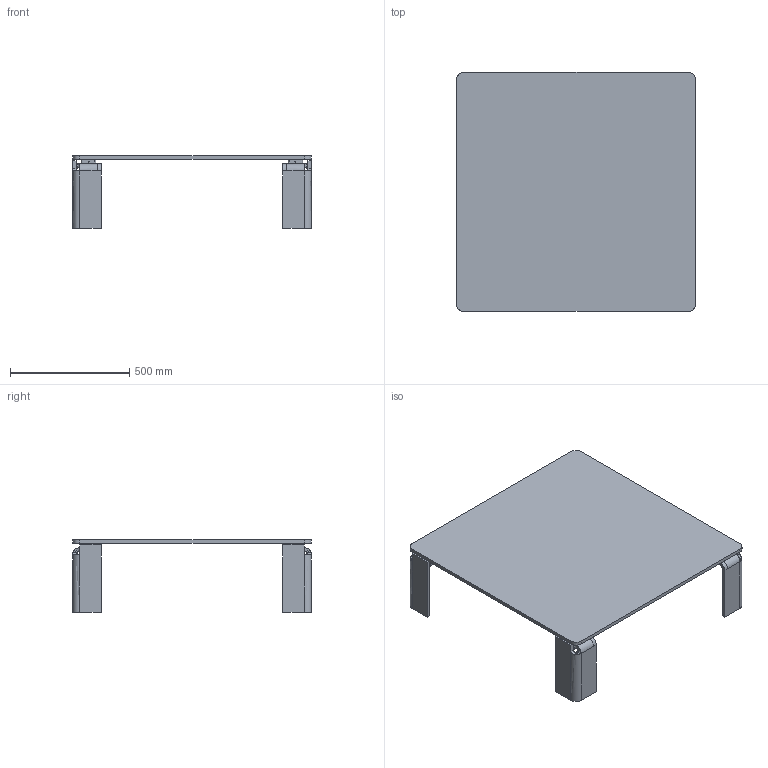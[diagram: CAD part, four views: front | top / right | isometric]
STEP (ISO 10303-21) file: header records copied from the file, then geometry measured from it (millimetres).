
FILE_DESCRIPTION(/* description */ (''),/* implementation_level */ '2;1');
FILE_NAME(/* name */ '102 - Newton 100x100 H30',/* time_stamp */ '2012-06-20T14:53:23+02:00',/* author */ (''),/* organization */ (''),/* preprocessor_version */ 'ST-DEVELOPER v10',/* originating_system */ '',/* authorisation */ '');
FILE_SCHEMA (('CONFIG_CONTROL_DESIGN'));
Length unit declared in the file: millimetre
Products named in the file (1): 1
Bounding box: 1000 x 1000 x 304 mm (x, y, z)
Volume: 19376619.5 mm3; surface area: 2778707.8 mm2
Topology: 17 solids, 17 shells, 230 faces, 532 edges, 328 vertices
Faces by surface type: bspline 128, plane 102
Entity records: 8632 total; most frequent: CARTESIAN_POINT 5160, ORIENTED_EDGE 1048, EDGE_CURVE 524, B_SPLINE_CURVE_WITH_KNOTS 364, VERTEX_POINT 328, EDGE_LOOP 254, ADVANCED_FACE 230, FACE_OUTER_BOUND 230
